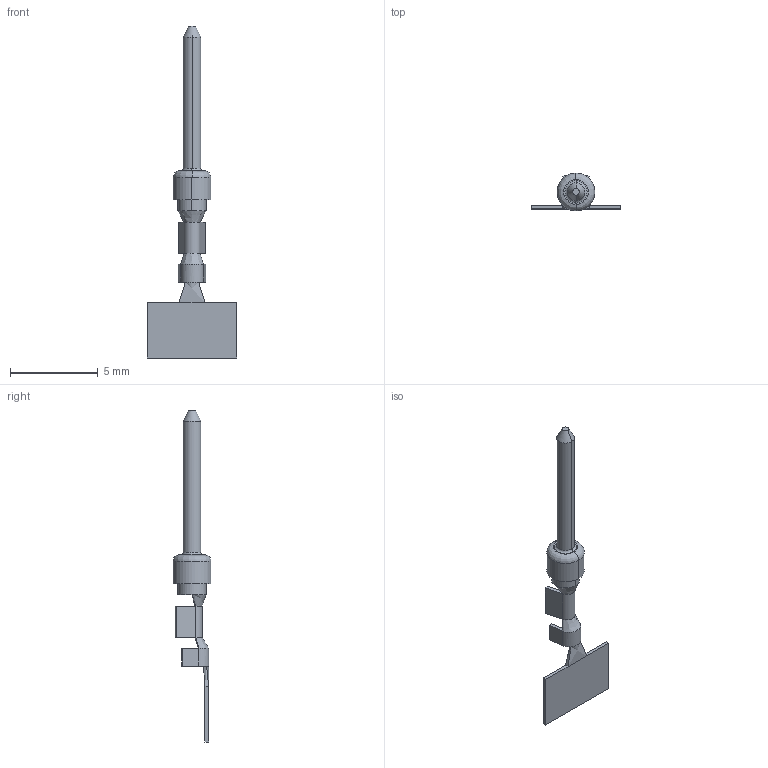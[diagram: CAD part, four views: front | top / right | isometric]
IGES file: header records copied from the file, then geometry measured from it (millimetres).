
Start section:  PTC IGES file: c-1658540-2-d-3d.igs
Global section: file name: c-1658540-2-d-3d.igs; native system: Pro/ENGINEER by Parametric Technology Corporation; preprocessor: 2008380; author: workeradm; organization: Unknown; units: millimetre
Bounding box: 5.08 x 2.16 x 18.92 mm (x, y, z)
Surface area: 109.9 mm2 (no closed solid volume)
Topology: 0 solids, 0 shells, 59 faces, 258 edges, 258 vertices
Faces by surface type: bspline 43, revolution 16
